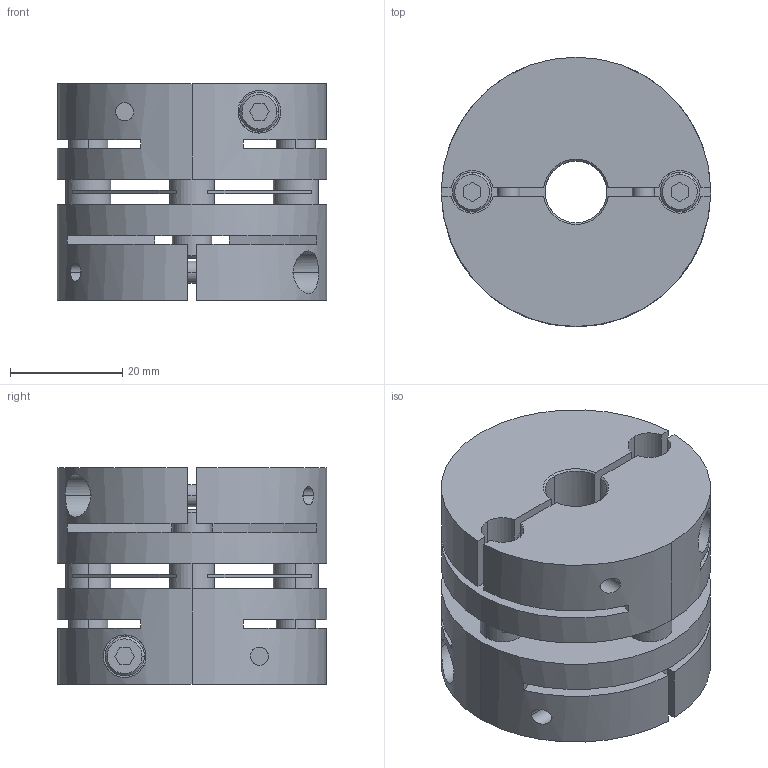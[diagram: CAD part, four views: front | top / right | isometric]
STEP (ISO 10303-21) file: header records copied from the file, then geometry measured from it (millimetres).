
FILE_DESCRIPTION((''),'2;1');
FILE_NAME('LAS-48C-11×16.stp','2015-10-14T15:38:37',(''),(''),'AutoCAD STEP 2000i','AutoCAD 2000i',', , ');
FILE_SCHEMA(('CONFIG_CONTROL_DESIGN'));
Length unit declared in the file: millimetre
Products named in the file (5): LAS-48C-12×12; 忣兜1; LA-4802-D12-1; LA-4802-D12; LAS48-ITA
Assembly tree (4 placements, depth 2):
  LAS-48C-12×12
    忣兜1
    LA-4802-D12-1
    LA-4802-D12
    LAS48-ITA
Bounding box: 48 x 48 x 38.6 mm (x, y, z)
Volume: 50662.6 mm3; surface area: 22596.7 mm2
Topology: 1 solids, 1 shells, 224 faces, 588 edges, 384 vertices
Faces by surface type: plane 112, cylinder 84, cone 28
Entity records: 7607 total; most frequent: CARTESIAN_POINT 1713, DIRECTION 1250, ORIENTED_EDGE 1176, EDGE_CURVE 588, AXIS2_PLACEMENT_3D 457, VERTEX_POINT 384, VECTOR 336, LINE 336
